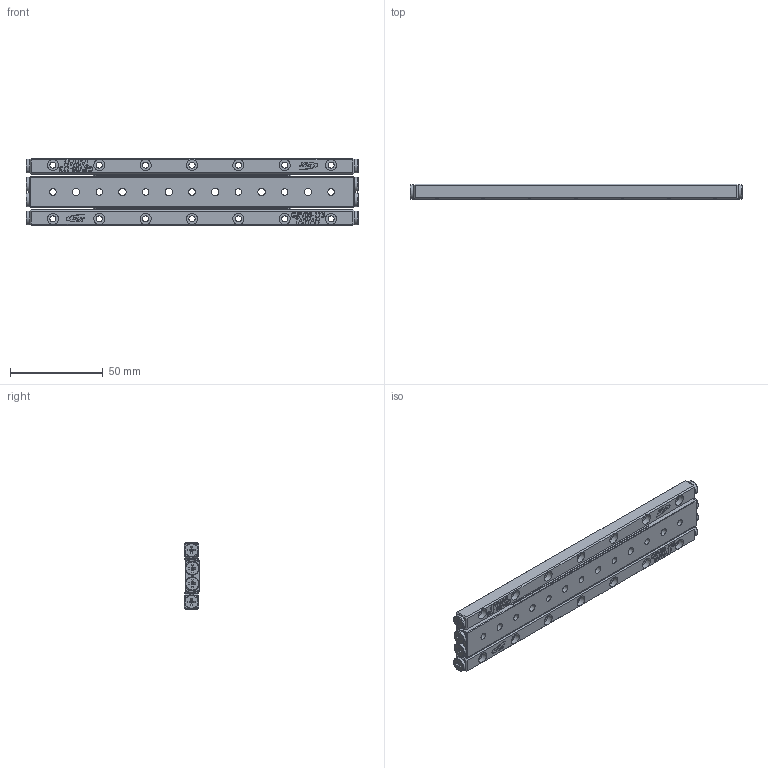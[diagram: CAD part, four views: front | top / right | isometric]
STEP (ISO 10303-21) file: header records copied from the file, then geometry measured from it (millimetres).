
FILE_DESCRIPTION (( 'STEP AP203' ), '1' );
FILE_NAME ('GRD03-175.STEP', '2023-11-01T02:39:46', ( '' ), ( '' ), 'SwSTEP 2.0', 'SolidWorks 2019', '' );
FILE_SCHEMA (( 'CONFIG_CONTROL_DESIGN' ));
Length unit declared in the file: millimetre
Products named in the file (4): GRV03-175-模糊化軌道; GRV03-175-模糊化保持器組; GRD03-175-模糊化中軌; GRD03-175
Assembly tree (5 placements, depth 2):
  GRD03-175
    GRD03-175-模糊化中軌
    GRV03-175-模糊化軌道  x2
    GRV03-175-模糊化保持器組  x2
Bounding box: 179 x 8.5 x 36 mm (x, y, z)
Volume: 43087.4 mm3; surface area: 28415 mm2
Topology: 5 solids, 5 shells, 1901 faces, 4665 edges, 3022 vertices
Faces by surface type: plane 1416, bspline 171, cylinder 142, torus 100, cone 72
Full cylindrical faces by diameter (mm): 3.3 x14, 3.5 x7, 4 x6, 6 x21, 7.5 x8
Entity records: 40165 total; most frequent: CARTESIAN_POINT 13491, ORIENTED_EDGE 5578, DIRECTION 4772, EDGE_CURVE 2789, VECTOR 2008, LINE 2008, VERTEX_POINT 1827, EDGE_LOOP 1404
